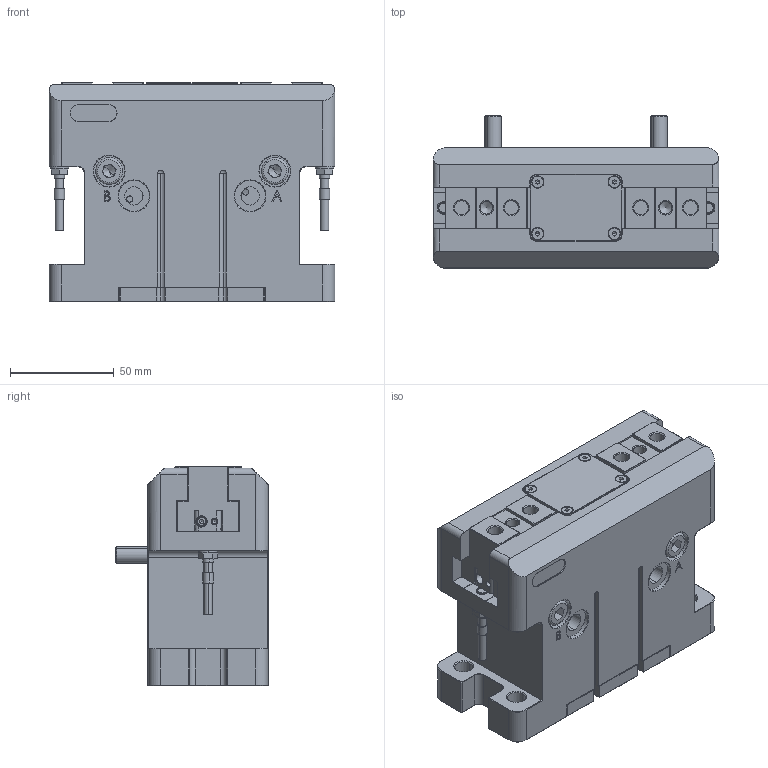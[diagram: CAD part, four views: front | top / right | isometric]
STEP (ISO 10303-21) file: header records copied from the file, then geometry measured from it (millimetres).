
FILE_DESCRIPTION(/* description */ (''),/* implementation_level */ '2;1');
FILE_NAME(/* name */ 'GFHZ2-5040D-',/* time_stamp */ '2022-12-21T10:44:58+08:00',/* author */ (''),/* organization */ (''),/* preprocessor_version */ 'ST-DEVELOPER v9',/* originating_system */ 'UGS - NX 4.0',/* authorisation */ '');
FILE_SCHEMA (('AUTOMOTIVE_DESIGN { 1 0 10303 214 1 1 1 1 }'));
Length unit declared in the file: millimetre
Products named in the file (1): Admi3F837urs
Bounding box: 138 x 73.5 x 105.8 mm (x, y, z)
Volume: 692155.7 mm3; surface area: 112806.9 mm2
Topology: 5 solids, 22 shells, 1450 faces, 3493 edges, 2107 vertices
Faces by surface type: plane 827, cylinder 292, cone 271, torus 32, extrusion 14, bspline 10, sphere 4
Full cylindrical faces by diameter (mm): 2.5 x4, 2.7 x4, 4.5 x4, 5 x4, 6 x2, 6.8 x4
Entity records: 53110 total; most frequent: CARTESIAN_POINT 11189, DIRECTION 7037, ORIENTED_EDGE 6746, EDGE_CURVE 3373, AXIS2_PLACEMENT_3D 2423, VECTOR 2191, LINE 2177, VERTEX_POINT 2087
